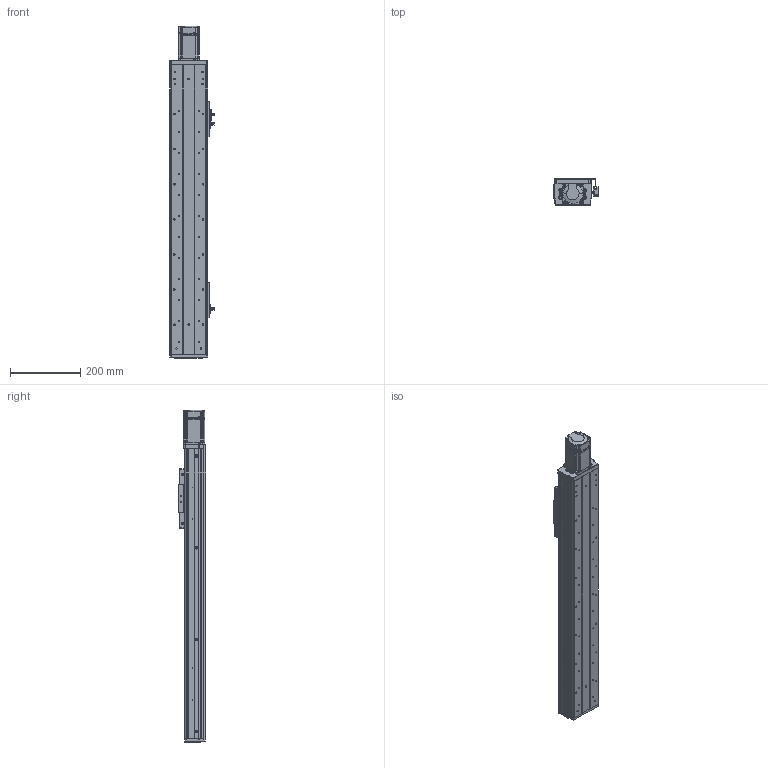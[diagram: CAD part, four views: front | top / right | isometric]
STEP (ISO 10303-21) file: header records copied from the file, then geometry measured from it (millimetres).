
FILE_DESCRIPTION (( 'STEP AP203' ), '1' );
FILE_NAME ('RY100FS-300-MK(15双轨).SLDASM_550.step', '2021-03-02T05:50:51', ( '盈信电脑' ), ( '东莞市道滘镇水果街19号' ), 'SwSTEP 2.0', 'SolidWorks 2012', '' );
FILE_SCHEMA (( 'CONFIG_CONTROL_DESIGN' ));
Length unit declared in the file: millimetre
Products named in the file (20): RY100FS-300-MK15絳寢倰第菁釱_550; RY100FS-300-MK15絳寢倰第奻裔啣_550; RY100FS-双轨铝滑块(上板）; 棠沺沭; RY100F-滅鳥裔啣; RY100FS-300-MK15邧寢祥凄詩湍_550; RY100FS-300-MK(15邧寢).SLDASM_550; RY100FS-双轨螺母座(16丝杆）; 滅袉蝶14-35; 滅袉蝶14-24; RY80俋离覜茼え; RY100FS-15絳寢萇儂假蚾啣(200W PCD70 M4); RY100F-詩湍揤踡輸; 覜茼ん672; 1; 672嫖萇羲壽假蚾釱; 侂狟200W萇儂; RY100F-綴裔啣; RY100F-詩湍揤踡謫; RY100F-詩湍幗謫粣
Assembly tree (27 placements, depth 3):
  RY100FS-300-MK(15邧寢).SLDASM_550
    RY100FS-300-MK15絳寢倰第菁釱_550
    RY100FS-300-MK15絳寢倰第奻裔啣_550  x2
    RY100FS-300-MK15邧寢祥凄詩湍_550
    RY100FS-双轨铝滑块(上板）
    RY100F-滅鳥裔啣
    棠沺沭  x2
    RY100F-詩湍幗謫粣
    RY100F-詩湍揤踡謫  x2
    侂狟200W萇儂
      1
    RY100F-綴裔啣
    672嫖萇羲壽假蚾釱  x2
    RY80俋离覜茼え  x2
    覜茼ん672  x3
    RY100F-詩湍揤踡輸  x2
    RY100FS-15絳寢萇儂假蚾啣(200W PCD70 M4)
    RY100FS-双轨螺母座(16丝杆）
    滅袉蝶14-24
    滅袉蝶14-35
Bounding box: 126.2 x 78.5 x 946 mm (x, y, z)
Volume: 2118573.1 mm3; surface area: 848218.5 mm2
Topology: 26 solids, 26 shells, 2006 faces, 5463 edges, 3551 vertices
Faces by surface type: plane 967, cylinder 878, cone 136, bspline 25
Entity records: 56951 total; most frequent: CARTESIAN_POINT 11699, DIRECTION 8996, ORIENTED_EDGE 8906, EDGE_CURVE 4453, AXIS2_PLACEMENT_3D 3158, VERTEX_POINT 2931, LINE 2680, VECTOR 2680
